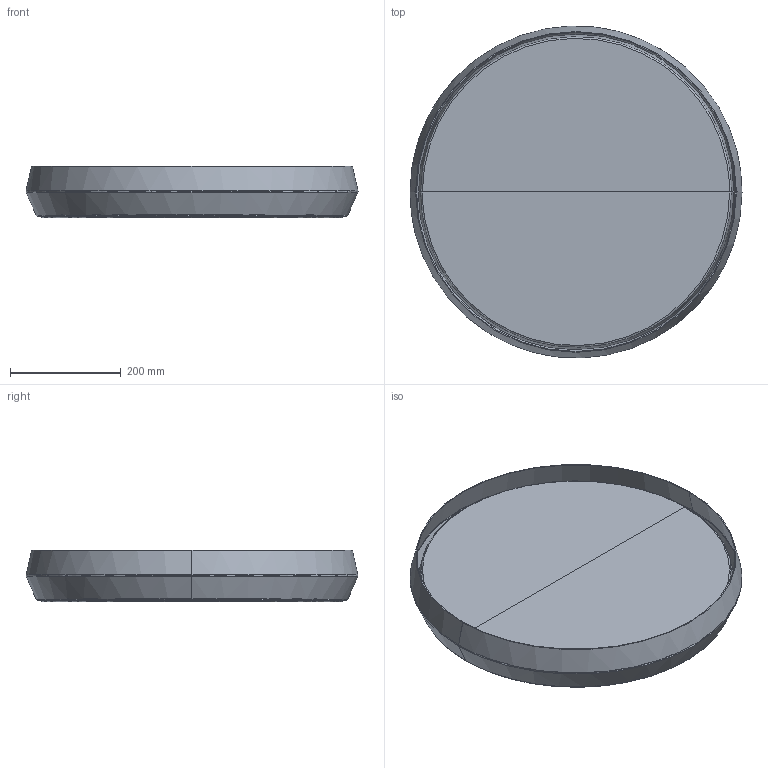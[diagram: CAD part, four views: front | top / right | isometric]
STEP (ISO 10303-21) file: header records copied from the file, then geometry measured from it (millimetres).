
FILE_DESCRIPTION(/* description */ (''),/* implementation_level */ '2;1');
FILE_NAME(/* name */ '64281.step',/* time_stamp */ '2024-06-04T15:57:43+02:00',/* author */ ('RenataManzini'),/* organization */ (''),/* preprocessor_version */ 'ST-DEVELOPER v20',/* originating_system */ 'AutoCAD Mechanical',/* authorisation */ '');
FILE_SCHEMA (('AUTOMOTIVE_DESIGN { 1 0 10303 214 3 1 1 }'));
Length unit declared in the file: millimetre
Products named in the file (2): Product; SHOKU_600 - lamp-208259-Export
Assembly tree (1 placements, depth 2):
  Product
    SHOKU_600 - lamp-208259-Export
Bounding box: 599.99 x 599.99 x 93 mm (x, y, z)
Volume: 9740176.9 mm3; surface area: 2452589.9 mm2
Topology: 3 solids, 4 shells, 240 faces, 514 edges, 319 vertices
Faces by surface type: cylinder 104, plane 86, torus 30, cone 16, bspline 4
Entity records: 11609 total; most frequent: CARTESIAN_POINT 6293, DIRECTION 1157, ORIENTED_EDGE 1022, EDGE_CURVE 511, AXIS2_PLACEMENT_3D 480, VERTEX_POINT 314, EDGE_LOOP 287, CIRCLE 241
